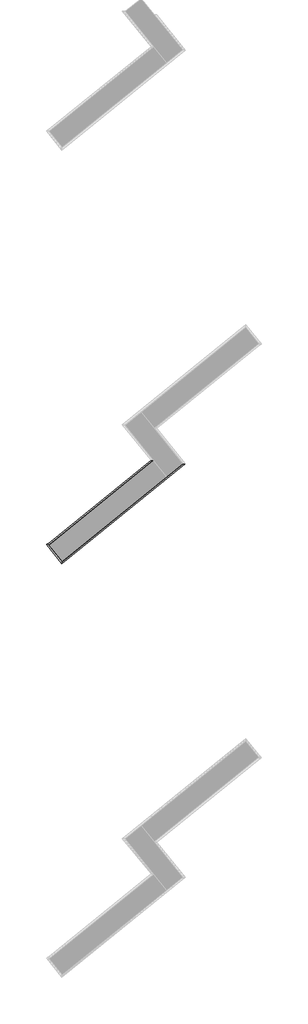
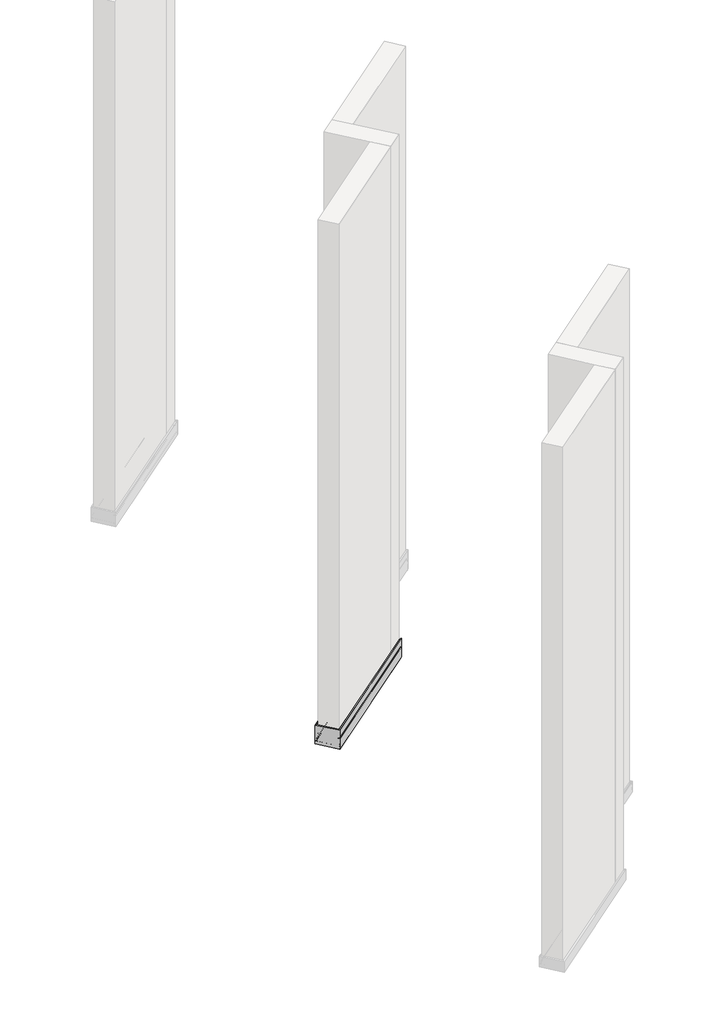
# One storey, part 9 of 21: 2 proxies.
"""IFC4 building model written with IfcOpenShell, lengths in millimetres."""

from ifc_helpers import new_model, si_unit, frame, origin, place, context, project, spatial, circle_curve, ellipse_curve, element, save
from ifc_brep_helpers import plane_surface, cylinder_surface, advanced_brep

model = new_model("IFC4")

# Units and contexts
model_context = context("Model", 3, world=origin())
ifc_project = project(units=[si_unit("LENGTHUNIT", "METRE", prefix="MILLI")], contexts=[model_context])

# Site, building, storey
site = spatial("IfcSite", under=ifc_project)
building = spatial("IfcBuilding", under=site)
storey = spatial("IfcBuildingStorey", under=building, Name="Izofleks 2D View", Elevation=0.0)

# Proxies
placement = place(None, origin())
element("IfcBuildingElementProxy", 1, Name="Wall Sweeps", at=placement, inside=storey, context=model_context, shape_type="AdvancedBrep", body=[
    advanced_brep(
    [(2430.0042509, -5344.9959291, 49.9746979), (2432.307842, -5345.2380463, 58.8370339), (2433.6908876, -5345.3834102, 59.6553004), (2437.3944482, -5345.7726701, 59.6553004), (2437.3944482, -5345.7726701, 103.6583819), (2432.8937514, -5345.2996278, 103.6583819), (2432.8937514, -5345.2996278, 101.6584596), (2427.9711237, -5344.7822388, 101.6584596), (2427.9711237, -5344.7822388, 102.9584585), (2430.7840519, -5345.0778895, 102.9584585), (2430.7840519, -5345.0778895, 104.9583814), (2439.2228545, -5345.9648434, 104.9583814), (2439.2228545, -5345.9648434, 2.9583289), (2436.4094999, -5345.6691479, 2.9583289), (2436.4094999, -5345.6691479, 0.4656126), (2434.5810936, -5345.4769746, 0.4656126), (2434.5810936, -5345.4769746, 4.2583289), (2437.3944482, -5345.7726701, 4.2583289), (2437.3944482, -5345.7726701, 28.7655004), (2434.0080992, -5345.4167505, 28.7655004), (2433.7384472, -5345.3884089, 27.7479135), (2435.1018647, -5345.5317099, 27.7479135), (2435.7872524, -5345.603747, 27.1404306), (2433.0506843, -5345.3161221, 18.30079), (2435.3427515, -5345.5570281, 18.30079), (2435.3488299, -5345.557667, 16.99999), (2428.316906, -5344.818582, 16.99999), (2428.316906, -5344.818582, 0.0), (2426.4885138, -5344.6264102, 0.0), (2426.4885138, -5344.6264102, 54.99999), (2428.316906, -5344.818582, 53.99999), (2428.316906, -5344.818582, 47.88979), (2431.1767584, -5345.1191646, 47.88979), (2431.8487049, -5345.189789, 48.8483083), (1773.0133322, -5733.3856184, 49.9746979), (1771.9941753, -5734.2109154, 48.8483083), (1772.3654607, -5733.9102544, 47.88979), (1773.9456782, -5732.6306195, 47.88979), (1773.9456782, -5732.6306195, 53.99999), (1774.9559602, -5731.8125092, 54.99999), (1774.9559602, -5731.8125092, 0.0), (1773.9456782, -5732.6306195, 0.0), (1773.9456782, -5732.6306195, 16.99999), (1770.0601738, -5735.7770389, 16.99999), (1770.0635324, -5735.7743192, 18.30079), (1771.330019, -5734.7487385, 18.30079), (1769.8179225, -5735.9732101, 27.1404306), (1770.1966349, -5735.6665349, 27.7479135), (1770.9499942, -5735.0564766, 27.7479135), (1770.8009974, -5735.1771318, 28.7655004), (1768.929863, -5736.6923465, 28.7655004), (1768.929863, -5736.6923465, 4.2583289), (1770.4843881, -5735.4335169, 4.2583289), (1770.4843881, -5735.4335169, 0.4656126), (1769.4740984, -5736.2516335, 0.4656126), (1769.4740984, -5736.2516335, 2.9583289), (1767.9195733, -5737.510463, 2.9583289), (1767.9195733, -5737.510463, 104.9583814), (1772.5824516, -5733.7345387, 104.9583814), (1772.5824516, -5733.7345387, 102.9584585), (1774.136741, -5732.4758999, 102.9584585), (1774.136741, -5732.4758999, 101.6584596), (1771.4167326, -5734.6785192, 101.6584596), (1771.4167326, -5734.6785192, 103.6583819), (1768.929863, -5736.6923465, 103.6583819), (1768.929863, -5736.6923465, 59.6553004), (1770.9762733, -5735.0351961, 59.6553004), (1771.7404781, -5734.4163553, 58.8370339), (1843.2595238, -5820.1324406, 49.9746979), (1843.0174067, -5822.4360317, 58.8370339), (1842.8720427, -5823.8190773, 59.6553004), (1842.4827828, -5827.522638, 59.6553004), (1842.4827828, -5827.522638, 103.6583819), (1842.9558251, -5823.0219411, 103.6583819), (1842.9558251, -5823.0219411, 101.6584596), (1843.4732141, -5818.0993134, 101.6584596), (1843.4732141, -5818.0993134, 102.9584585), (1843.1775634, -5820.9122416, 102.9584585), (1843.1775634, -5820.9122416, 104.9583814), (1842.2906095, -5829.3510442, 104.9583814), (1842.2906095, -5829.3510442, 2.9583289), (1842.586305, -5826.5376896, 2.9583289), (1842.586305, -5826.5376896, 0.4656126), (1842.7784783, -5824.7092833, 0.4656126), (1842.7784783, -5824.7092833, 4.2583289), (1842.4827828, -5827.522638, 4.2583289), (1842.4827828, -5827.522638, 28.7655004), (1842.8387024, -5824.1362889, 28.7655004), (1842.867044, -5823.8666369, 27.7479135), (1842.723743, -5825.2300544, 27.7479135), (1842.6517059, -5825.9154421, 27.1404306), (1842.9393308, -5823.178874, 18.30079), (1842.6984248, -5825.4709412, 18.30079), (1842.6977859, -5825.4770196, 16.99999), (1843.4368709, -5818.4450957, 16.99999), (1843.4368709, -5818.4450957, 0.0), (1843.6290427, -5816.6167035, 0.0), (2348.7739176, -5407.5584493, 0.0), (1843.6290427, -5816.6167035, 54.99999), (1843.4368709, -5818.4450957, 53.99999), (1843.4368709, -5818.4450957, 47.88979), (1843.1362883, -5821.3049481, 47.88979), (1843.0656639, -5821.9768946, 48.8483083), (1780.6970036, -5738.9021074, 0.0)],
    [
        (0, 1),
        (1, 2, ellipse_curve(frame((2433.6908876, -5345.3834102, 58.6553004), z_axis=(0.1045284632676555, 0.9945218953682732, 0.0), x_axis=(0.9945218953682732, -0.10452846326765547, 0.0)), 1.4142136, 1.0)),
        (2, 3),
        (3, 4),
        (4, 5),
        (5, 6),
        (6, 7),
        (7, 8),
        (8, 9),
        (9, 10),
        (10, 11),
        (11, 12),
        (12, 13),
        (13, 14),
        (14, 15),
        (15, 16),
        (16, 17),
        (17, 18),
        (18, 19),
        (19, 20),
        (20, 21),
        (21, 22, ellipse_curve(frame((2435.1004582, -5345.5315621, 27.2479135), z_axis=(0.1045284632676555, 0.9945218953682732, 0.0), x_axis=(0.9945218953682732, -0.10452846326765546, 0.0)), 0.7071082, 0.500001)),
        (22, 23),
        (23, 24),
        (24, 25, ellipse_curve(frame((2435.1785737, -5345.5397723, 17.649995), z_axis=(0.1045284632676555, 0.9945218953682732, 0.0), x_axis=(0.9945218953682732, -0.10452846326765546, 0.0)), 0.935051, 0.6611809)),
        (25, 26),
        (26, 27),
        (27, 28),
        (28, 29),
        (29, 30, ellipse_curve(frame((2426.8389918, -5344.663247, 53.9789482), z_axis=(0.1045284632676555, 0.9945218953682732, 0.0), x_axis=(0.9945218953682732, -0.10452846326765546, 0.0)), 1.4863528, 1.0510102)),
        (30, 31),
        (31, 32),
        (32, 33),
        (33, 0, ellipse_curve(frame((2431.3872965, -5345.141293, 49.7929644), z_axis=(0.1045284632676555, 0.9945218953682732, 0.0), x_axis=(0.9945218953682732, -0.10452846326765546, 0.0)), 1.4142136, 1.0)),
        (34, 35, circle_curve(frame((1772.2491274, -5734.0044592, 49.7929644), z_axis=(-0.629320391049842, 0.7771459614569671, 0.0), x_axis=(-0.7771459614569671, -0.629320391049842, 0.0)), 1.0)),
        (35, 36),
        (36, 37),
        (37, 38),
        (38, 39, circle_curve(frame((1774.7623028, -5731.9693299, 53.9789482), z_axis=(-0.629320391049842, 0.7771459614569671, 0.0), x_axis=(-0.7771459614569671, -0.629320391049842, 0.0)), 1.0510102)),
        (39, 40),
        (40, 41),
        (41, 42),
        (42, 43),
        (43, 44, circle_curve(frame((1770.1542492, -5735.7008582, 17.649995), z_axis=(-0.629320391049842, 0.7771459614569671, 0.0), x_axis=(-0.7771459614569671, -0.629320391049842, 0.0)), 0.6611809)),
        (44, 45),
        (45, 46),
        (46, 47, circle_curve(frame((1770.1974121, -5735.6659056, 27.2479135), z_axis=(-0.629320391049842, 0.7771459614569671, 0.0), x_axis=(-0.7771459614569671, -0.629320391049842, 0.0)), 0.500001)),
        (47, 48),
        (48, 49),
        (49, 50),
        (50, 51),
        (51, 52),
        (52, 53),
        (53, 54),
        (54, 55),
        (55, 56),
        (56, 57),
        (57, 58),
        (58, 59),
        (59, 60),
        (60, 61),
        (61, 62),
        (62, 63),
        (63, 64),
        (64, 65),
        (65, 66),
        (66, 67, circle_curve(frame((1770.9762733, -5735.0351961, 58.6553004), z_axis=(-0.629320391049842, 0.7771459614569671, 0.0), x_axis=(0.7642047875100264, 0.6188408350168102, 0.18173349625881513)), 1.0)),
        (67, 34),
        (0, 68),
        (68, 69),
        (69, 1),
        (69, 70, ellipse_curve(frame((1842.8720427, -5823.8190773, 58.6553004), z_axis=(0.9945218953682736, -0.1045284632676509, 0.0), x_axis=(0.10452846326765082, 0.9945218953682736, 0.0)), 1.4142136, 1.0)),
        (70, 2),
        (70, 71),
        (71, 3),
        (71, 72),
        (72, 4),
        (72, 73),
        (73, 5),
        (73, 74),
        (74, 6),
        (74, 75),
        (75, 7),
        (75, 76),
        (76, 8),
        (76, 77),
        (77, 9),
        (77, 78),
        (78, 10),
        (78, 79),
        (79, 11),
        (79, 80),
        (80, 12),
        (80, 81),
        (81, 13),
        (81, 82),
        (82, 14),
        (82, 83),
        (83, 15),
        (83, 84),
        (84, 16),
        (84, 85),
        (85, 17),
        (85, 86),
        (86, 18),
        (86, 87),
        (87, 19),
        (87, 88),
        (88, 20),
        (88, 89),
        (89, 21),
        (89, 90, ellipse_curve(frame((1842.7238909, -5825.228648, 27.2479135), z_axis=(0.9945218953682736, -0.1045284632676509, 0.0), x_axis=(0.10452846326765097, 0.9945218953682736, 0.0)), 0.7071082, 0.500001)),
        (90, 22),
        (90, 91),
        (91, 23),
        (91, 92),
        (92, 24),
        (92, 93, ellipse_curve(frame((1842.7156806, -5825.3067635, 17.649995), z_axis=(0.9945218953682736, -0.1045284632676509, 0.0), x_axis=(0.10452846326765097, 0.9945218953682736, 0.0)), 0.935051, 0.6611809)),
        (93, 25),
        (93, 94),
        (94, 26),
        (94, 95),
        (95, 27),
        (95, 96),
        (96, 97),
        (97, 28),
        (96, 98),
        (98, 29),
        (98, 99, ellipse_curve(frame((1843.592206, -5816.9671816, 53.9789482), z_axis=(0.9945218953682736, -0.1045284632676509, 0.0), x_axis=(0.10452846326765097, 0.9945218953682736, 0.0)), 1.4863528, 1.0510102)),
        (99, 30),
        (99, 100),
        (100, 31),
        (100, 101),
        (101, 32),
        (101, 102),
        (102, 33),
        (102, 68, ellipse_curve(frame((1843.1141599, -5821.5154863, 49.7929644), z_axis=(0.9945218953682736, -0.1045284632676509, 0.0), x_axis=(0.10452846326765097, 0.9945218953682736, 0.0)), 1.4142136, 1.0)),
        (68, 34),
        (67, 69),
        (66, 70),
        (65, 71),
        (64, 72),
        (63, 73),
        (62, 74),
        (61, 75),
        (60, 76),
        (59, 77),
        (58, 78),
        (57, 79),
        (56, 80),
        (55, 81),
        (54, 82),
        (53, 83),
        (52, 84),
        (51, 85),
        (50, 86),
        (49, 87),
        (48, 88),
        (47, 89),
        (46, 90),
        (45, 91),
        (44, 92),
        (43, 93),
        (42, 94),
        (41, 95),
        (40, 103),
        (103, 96),
        (39, 98),
        (38, 99),
        (37, 100),
        (36, 101),
        (35, 102),
    ],
    [
        plane_surface(frame((2426.4885138, -5344.6264102, 304.8), z_axis=(0.1045284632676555, 0.9945218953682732, 0.0), x_axis=(-0.9945218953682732, 0.1045284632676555, 0.0))),
        plane_surface(frame((2318.9581332, -5291.2882355, 0.0), z_axis=(-0.6293203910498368, 0.7771459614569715, 0.0), x_axis=(0.7771459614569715, 0.6293203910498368, 0.0))),
        plane_surface(frame((2430.0042509, -5344.9959291, 49.9746979), z_axis=(-0.6188408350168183, 0.7642047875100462, 0.1817334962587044), x_axis=(-0.7771459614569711, -0.6293203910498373, 0.0))),
        cylinder_surface(frame((2429.7112007, -5348.6060971, 58.6553004), z_axis=(0.7771459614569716, 0.629320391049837, 0.0), x_axis=(-0.618840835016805, 0.7642047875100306, 0.1817334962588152)), 1.0),
        plane_surface(frame((2433.6908876, -5345.3834102, 59.6553004), z_axis=(0.0, 0.0, 1.0), x_axis=(-0.7771459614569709, -0.6293203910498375, 0.0))),
        plane_surface(frame((2437.3944482, -5345.7726701, 59.6553004), z_axis=(-0.6293203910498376, 0.7771459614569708, 0.0), x_axis=(-0.7771459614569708, -0.6293203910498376, 0.0))),
        plane_surface(frame((2437.3944482, -5345.7726701, 103.6583819), z_axis=(0.0, 0.0, -1.0), x_axis=(-0.7771459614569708, -0.6293203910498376, 0.0))),
        plane_surface(frame((2432.8937514, -5345.2996278, 103.6583819), z_axis=(0.6293203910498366, -0.7771459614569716, 0.0), x_axis=(-0.7771459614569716, -0.6293203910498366, 0.0))),
        plane_surface(frame((2432.8937514, -5345.2996278, 101.6584596), z_axis=(0.0, 0.0, -1.0), x_axis=(-0.7771459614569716, -0.6293203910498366, 0.0))),
        plane_surface(frame((2427.9711237, -5344.7822388, 101.6584596), z_axis=(-0.6293203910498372, 0.7771459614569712, 0.0), x_axis=(-0.7771459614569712, -0.6293203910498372, 0.0))),
        plane_surface(frame((2427.9711237, -5344.7822388, 102.9584585), z_axis=(0.0, 0.0, 1.0000000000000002), x_axis=(-0.7771459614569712, -0.6293203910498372, 0.0))),
        plane_surface(frame((2430.7840519, -5345.0778895, 102.9584585), z_axis=(-0.6293203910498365, 0.7771459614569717, 0.0), x_axis=(-0.7771459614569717, -0.6293203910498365, 0.0))),
        plane_surface(frame((2430.7840519, -5345.0778895, 104.9583814), z_axis=(0.0, 0.0, 1.0), x_axis=(-0.7771459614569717, -0.6293203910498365, 0.0))),
        plane_surface(frame((2439.2228545, -5345.9648434, 104.9583814), z_axis=(0.6293203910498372, -0.7771459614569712, 0.0), x_axis=(-0.7771459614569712, -0.6293203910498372, 0.0))),
        plane_surface(frame((2439.2228545, -5345.9648434, 2.9583289), z_axis=(0.0, 0.0, -1.0000000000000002), x_axis=(-0.7771459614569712, -0.6293203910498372, 0.0))),
        plane_surface(frame((2436.4094999, -5345.6691479, 2.9583289), z_axis=(0.6293203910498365, -0.7771459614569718, 0.0), x_axis=(-0.7771459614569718, -0.6293203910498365, 0.0))),
        plane_surface(frame((2436.4094999, -5345.6691479, 0.4656126), z_axis=(0.0, 0.0, -1.0), x_axis=(-0.7771459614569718, -0.6293203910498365, 0.0))),
        plane_surface(frame((2434.5810936, -5345.4769746, 0.4656126), z_axis=(-0.629320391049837, 0.7771459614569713, 0.0), x_axis=(-0.7771459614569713, -0.629320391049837, 0.0))),
        plane_surface(frame((2434.5810936, -5345.4769746, 4.2583289), z_axis=(0.0, 0.0, 1.0), x_axis=(-0.7771459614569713, -0.629320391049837, 0.0))),
        plane_surface(frame((2437.3944482, -5345.7726701, 4.2583289), z_axis=(-0.6293203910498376, 0.7771459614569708, 0.0), x_axis=(-0.7771459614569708, -0.6293203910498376, 0.0))),
        plane_surface(frame((2437.3944482, -5345.7726701, 28.7655004), z_axis=(0.0, 0.0, -1.0), x_axis=(-0.7771459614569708, -0.6293203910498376, 0.0))),
        plane_surface(frame((2434.0080992, -5345.4167505, 28.7655004), z_axis=(0.6184393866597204, -0.7637090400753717, -0.1851519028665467), x_axis=(-0.7771459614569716, -0.6293203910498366, 0.0))),
        plane_surface(frame((2433.7384472, -5345.3884089, 27.7479135), z_axis=(0.0, 0.0, 1.0), x_axis=(-0.7771459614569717, -0.6293203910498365, 0.0))),
        cylinder_surface(frame((2430.3419101, -5349.3849584, 27.2479135), z_axis=(0.7771459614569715, 0.6293203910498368, 0.0), x_axis=(0.6293203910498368, -0.7771459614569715, 0.0)), 0.500001),
        plane_surface(frame((2435.7872524, -5345.603747, 27.1404306), z_axis=(0.6146079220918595, -0.7589775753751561, -0.21496544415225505), x_axis=(-0.7771459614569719, -0.6293203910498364, 0.0))),
        plane_surface(frame((2433.0506843, -5345.3161221, 18.30079), z_axis=(0.0, 0.0, 1.0), x_axis=(-0.7771459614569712, -0.6293203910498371, 0.0))),
        cylinder_surface(frame((2430.3768627, -5349.4281213, 17.649995), z_axis=(0.7771459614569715, 0.6293203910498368, 0.0), x_axis=(0.6293203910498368, -0.7771459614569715, 0.0)), 0.6611809),
        plane_surface(frame((2435.3488299, -5345.557667, 16.99999), z_axis=(0.0, 0.0, -1.0000000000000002), x_axis=(-0.777145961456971, -0.6293203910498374, 0.0))),
        plane_surface(frame((2428.316906, -5344.818582, 16.99999), z_axis=(0.6293203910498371, -0.7771459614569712, 0.0), x_axis=(-0.7771459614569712, -0.6293203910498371, 0.0))),
        plane_surface(frame((2428.316906, -5344.818582, 0.0), z_axis=(0.0, 0.0, -1.0), x_axis=(-0.7771459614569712, -0.6293203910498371, 0.0))),
        plane_surface(frame((2426.4885138, -5344.6264102, 0.0), z_axis=(-0.629320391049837, 0.7771459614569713, 0.0), x_axis=(-0.7771459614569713, -0.629320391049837, 0.0))),
        cylinder_surface(frame((2426.6453344, -5344.8200676, 53.9789482), z_axis=(0.7771459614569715, 0.6293203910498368, 0.0), x_axis=(0.6293203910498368, -0.7771459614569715, 0.0)), 1.0510102),
        plane_surface(frame((2428.316906, -5344.818582, 53.99999), z_axis=(0.6293203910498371, -0.7771459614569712, 0.0), x_axis=(-0.7771459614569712, -0.6293203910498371, 0.0))),
        plane_surface(frame((2428.316906, -5344.818582, 47.88979), z_axis=(0.0, 0.0, 1.0), x_axis=(-0.7771459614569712, -0.6293203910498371, 0.0))),
        plane_surface(frame((2431.1767584, -5345.1191646, 47.88979), z_axis=(-0.5632343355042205, 0.6955364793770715, 0.44608977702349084), x_axis=(-0.7771459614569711, -0.6293203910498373, 0.0))),
        cylinder_surface(frame((2428.6804638, -5347.333243, 49.7929644), z_axis=(0.7771459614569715, 0.6293203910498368, 0.0), x_axis=(0.6293203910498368, -0.7771459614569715, 0.0)), 1.0),
        plane_surface(frame((1843.2595238, -5820.1324406, 49.9746979), z_axis=(0.7642047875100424, 0.618840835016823, 0.18173349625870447), x_axis=(-0.629320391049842, 0.7771459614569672, 0.0))),
        cylinder_surface(frame((1839.6493558, -5819.8393904, 58.6553004), z_axis=(0.6293203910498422, -0.7771459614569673, 0.0), x_axis=(0.7642047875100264, 0.6188408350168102, 0.18173349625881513)), 1.0),
        plane_surface(frame((1842.8720427, -5823.8190773, 59.6553004), z_axis=(0.0, 0.0, 1.0), x_axis=(-0.6293203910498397, 0.777145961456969, 0.0))),
        plane_surface(frame((1842.4827828, -5827.522638, 59.6553004), z_axis=(0.7771459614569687, 0.6293203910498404, 0.0), x_axis=(-0.6293203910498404, 0.7771459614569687, 0.0))),
        plane_surface(frame((1842.4827828, -5827.522638, 103.6583819), z_axis=(0.0, 0.0, -1.0000000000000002), x_axis=(-0.6293203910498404, 0.7771459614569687, 0.0))),
        plane_surface(frame((1842.9558251, -5823.0219411, 103.6583819), z_axis=(-0.7771459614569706, -0.6293203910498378, 0.0), x_axis=(-0.6293203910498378, 0.7771459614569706, 0.0))),
        plane_surface(frame((1842.9558251, -5823.0219411, 101.6584596), z_axis=(0.0, 0.0, -1.0), x_axis=(-0.6293203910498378, 0.7771459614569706, 0.0))),
        plane_surface(frame((1843.4732141, -5818.0993134, 101.6584596), z_axis=(0.7771459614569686, 0.6293203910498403, 0.0), x_axis=(-0.6293203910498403, 0.7771459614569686, 0.0))),
        plane_surface(frame((1843.4732141, -5818.0993134, 102.9584585), z_axis=(0.0, 0.0, 1.0), x_axis=(-0.6293203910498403, 0.7771459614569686, 0.0))),
        plane_surface(frame((1843.1775634, -5820.9122416, 102.9584585), z_axis=(0.7771459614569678, 0.6293203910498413, 0.0), x_axis=(-0.6293203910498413, 0.7771459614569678, 0.0))),
        plane_surface(frame((1843.1775634, -5820.9122416, 104.9583814), z_axis=(0.0, 0.0, 1.0), x_axis=(-0.6293203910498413, 0.7771459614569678, 0.0))),
        plane_surface(frame((1842.2906095, -5829.3510442, 104.9583814), z_axis=(-0.7771459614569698, -0.629320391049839, 0.0), x_axis=(-0.629320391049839, 0.7771459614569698, 0.0))),
        plane_surface(frame((1842.2906095, -5829.3510442, 2.9583289), z_axis=(0.0, 0.0, -1.0), x_axis=(-0.629320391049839, 0.7771459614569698, 0.0))),
        plane_surface(frame((1842.586305, -5826.5376896, 2.9583289), z_axis=(-0.7771459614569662, -0.6293203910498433, 0.0), x_axis=(-0.6293203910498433, 0.7771459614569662, 0.0))),
        plane_surface(frame((1842.586305, -5826.5376896, 0.4656126), z_axis=(0.0, 0.0, -1.0000000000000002), x_axis=(-0.6293203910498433, 0.7771459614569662, 0.0))),
        plane_surface(frame((1842.7784783, -5824.7092833, 0.4656126), z_axis=(0.7771459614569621, 0.6293203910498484, 0.0), x_axis=(-0.6293203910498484, 0.7771459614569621, 0.0))),
        plane_surface(frame((1842.7784783, -5824.7092833, 4.2583289), z_axis=(0.0, 0.0, 1.0), x_axis=(-0.6293203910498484, 0.7771459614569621, 0.0))),
        plane_surface(frame((1842.4827828, -5827.522638, 4.2583289), z_axis=(0.7771459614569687, 0.6293203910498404, 0.0), x_axis=(-0.6293203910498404, 0.7771459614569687, 0.0))),
        plane_surface(frame((1842.4827828, -5827.522638, 28.7655004), z_axis=(0.0, 0.0, -1.0000000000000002), x_axis=(-0.6293203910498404, 0.7771459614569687, 0.0))),
        plane_surface(frame((1842.8387024, -5824.1362889, 28.7655004), z_axis=(-0.7637090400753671, -0.6184393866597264, -0.18515190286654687), x_axis=(-0.6293203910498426, 0.7771459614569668, 0.0))),
        plane_surface(frame((1842.867044, -5823.8666369, 27.7479135), z_axis=(0.0, 0.0, 1.0000000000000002), x_axis=(-0.6293203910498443, 0.7771459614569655, 0.0))),
        cylinder_surface(frame((1838.8704946, -5820.4700998, 27.2479135), z_axis=(0.629320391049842, -0.7771459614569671, 0.0), x_axis=(-0.7771459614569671, -0.629320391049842, 0.0)), 0.500001),
        plane_surface(frame((1842.6517059, -5825.9154421, 27.1404306), z_axis=(-0.7589775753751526, -0.6146079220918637, -0.21496544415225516), x_axis=(-0.6293203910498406, 0.7771459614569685, 0.0))),
        plane_surface(frame((1842.9393308, -5823.178874, 18.30079), z_axis=(0.0, 0.0, 1.0), x_axis=(-0.6293203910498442, 0.7771459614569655, 0.0))),
        cylinder_surface(frame((1838.8273317, -5820.5050524, 17.649995), z_axis=(0.629320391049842, -0.7771459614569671, 0.0), x_axis=(-0.7771459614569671, -0.629320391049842, 0.0)), 0.6611809),
        plane_surface(frame((1842.6977859, -5825.4770196, 16.99999), z_axis=(0.0, 0.0, -1.0), x_axis=(-0.6293203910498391, 0.7771459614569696, 0.0))),
        plane_surface(frame((1843.4368709, -5818.4450957, 16.99999), z_axis=(-0.7771459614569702, -0.6293203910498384, 0.0), x_axis=(-0.6293203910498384, 0.7771459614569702, 0.0))),
        plane_surface(frame((1843.4368709, -5818.4450957, 0.0), z_axis=(0.0, 0.0, -1.0000000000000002), x_axis=(-0.6293203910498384, 0.7771459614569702, 0.0))),
        plane_surface(frame((1843.6290427, -5816.6167035, 0.0), z_axis=(0.7771459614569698, 0.6293203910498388, 0.0), x_axis=(-0.6293203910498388, 0.7771459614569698, 0.0))),
        cylinder_surface(frame((1843.4353853, -5816.7735242, 53.9789482), z_axis=(0.629320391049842, -0.7771459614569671, 0.0), x_axis=(-0.7771459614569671, -0.629320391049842, 0.0)), 1.0510102),
        plane_surface(frame((1843.4368709, -5818.4450957, 53.99999), z_axis=(-0.7771459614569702, -0.6293203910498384, 0.0), x_axis=(-0.6293203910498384, 0.7771459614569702, 0.0))),
        plane_surface(frame((1843.4368709, -5818.4450957, 47.88979), z_axis=(0.0, 0.0, 1.0000000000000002), x_axis=(-0.6293203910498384, 0.7771459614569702, 0.0))),
        plane_surface(frame((1843.1362883, -5821.3049481, 47.88979), z_axis=(0.6955364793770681, 0.5632343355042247, 0.44608977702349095), x_axis=(-0.6293203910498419, 0.7771459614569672, 0.0))),
        cylinder_surface(frame((1840.9222099, -5818.8086535, 49.7929644), z_axis=(0.629320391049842, -0.7771459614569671, 0.0), x_axis=(-0.7771459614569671, -0.629320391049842, 0.0)), 1.0),
    ],
    [
        (0, [[1, 2, 3, 4, 5, 6, 7, 8, 9, 10, 11, 12, 13, 14, 15, 16, 17, 18, 19, 20, 21, 22, 23, 24, 25, 26, 27, 28, 29, 30, 31, 32, 33, 34]]),
        (1, [[35, 36, 37, 38, 39, 40, 41, 42, 43, 44, 45, 46, 47, 48, 49, 50, 51, 52, 53, 54, 55, 56, 57, 58, 59, 60, 61, 62, 63, 64, 65, 66, 67, 68]]),
        (2, [[-1, 69, 70, 71]]),
        (3, [[-2, -71, 72, 73]]),
        (4, [[-3, -73, 74, 75]]),
        (5, [[-4, -75, 76, 77]]),
        (6, [[-5, -77, 78, 79]]),
        (7, [[-6, -79, 80, 81]]),
        (8, [[-7, -81, 82, 83]]),
        (9, [[-8, -83, 84, 85]]),
        (10, [[-9, -85, 86, 87]]),
        (11, [[-10, -87, 88, 89]]),
        (12, [[-11, -89, 90, 91]]),
        (13, [[-12, -91, 92, 93]]),
        (14, [[-13, -93, 94, 95]]),
        (15, [[-14, -95, 96, 97]]),
        (16, [[-15, -97, 98, 99]]),
        (17, [[-16, -99, 100, 101]]),
        (18, [[-17, -101, 102, 103]]),
        (19, [[-18, -103, 104, 105]]),
        (20, [[-19, -105, 106, 107]]),
        (21, [[-20, -107, 108, 109]]),
        (22, [[-21, -109, 110, 111]]),
        (23, [[-22, -111, 112, 113]]),
        (24, [[-23, -113, 114, 115]]),
        (25, [[-24, -115, 116, 117]]),
        (26, [[-25, -117, 118, 119]]),
        (27, [[-26, -119, 120, 121]]),
        (28, [[-27, -121, 122, 123]]),
        (29, [[-28, -123, 124, 125, 126]]),
        (30, [[-29, -126, -125, 127, 128]]),
        (31, [[-30, -128, 129, 130]]),
        (32, [[-31, -130, 131, 132]]),
        (33, [[-32, -132, 133, 134]]),
        (34, [[-33, -134, 135, 136]]),
        (35, [[-34, -136, 137, -69]]),
        (36, [[-70, 138, -68, 139]]),
        (37, [[-72, -139, -67, 140]]),
        (38, [[-74, -140, -66, 141]]),
        (39, [[-76, -141, -65, 142]]),
        (40, [[-78, -142, -64, 143]]),
        (41, [[-80, -143, -63, 144]]),
        (42, [[-82, -144, -62, 145]]),
        (43, [[-84, -145, -61, 146]]),
        (44, [[-86, -146, -60, 147]]),
        (45, [[-88, -147, -59, 148]]),
        (46, [[-90, -148, -58, 149]]),
        (47, [[-92, -149, -57, 150]]),
        (48, [[-94, -150, -56, 151]]),
        (49, [[-96, -151, -55, 152]]),
        (50, [[-98, -152, -54, 153]]),
        (51, [[-100, -153, -53, 154]]),
        (52, [[-102, -154, -52, 155]]),
        (53, [[-104, -155, -51, 156]]),
        (54, [[-106, -156, -50, 157]]),
        (55, [[-108, -157, -49, 158]]),
        (56, [[-110, -158, -48, 159]]),
        (57, [[-112, -159, -47, 160]]),
        (58, [[-114, -160, -46, 161]]),
        (59, [[-116, -161, -45, 162]]),
        (60, [[-118, -162, -44, 163]]),
        (61, [[-120, -163, -43, 164]]),
        (62, [[-122, -164, -42, 165]]),
        (63, [[-124, -165, -41, 166, 167]]),
        (64, [[-127, -167, -166, -40, 168]]),
        (65, [[-129, -168, -39, 169]]),
        (66, [[-131, -169, -38, 170]]),
        (67, [[-133, -170, -37, 171]]),
        (68, [[-135, -171, -36, 172]]),
        (69, [[-137, -172, -35, -138]]),
    ],
),
])
element("IfcBuildingElementProxy", 2, Name="Wall Sweeps", at=placement, inside=storey, context=model_context, shape_type="AdvancedBrep", body=[
    advanced_brep(
    [(2282.3261414, -5329.4743343, 49.9746979), (2280.4816874, -5329.2804744, 48.8483083), (2281.1536339, -5329.3510988, 47.88979), (2284.0134863, -5329.6516814, 47.88979), (2284.0134863, -5329.6516814, 53.99999), (2285.8418785, -5329.8438532, 54.99999), (2285.8418785, -5329.8438532, 0.0), (2284.0134863, -5329.6516814, 0.0), (2284.0134863, -5329.6516814, 16.99999), (2276.9815625, -5328.9125964, 16.99999), (2276.9876408, -5328.9132353, 18.30079), (2279.279708, -5329.1541413, 18.30079), (2276.54314, -5328.8665164, 27.1404306), (2277.2285276, -5328.9385535, 27.7479135), (2278.5919451, -5329.0818545, 27.7479135), (2278.3222931, -5329.0535129, 28.7655004), (2274.9359441, -5328.6975933, 28.7655004), (2274.9359441, -5328.6975933, 4.2583289), (2277.7492987, -5328.9932888, 4.2583289), (2277.7492987, -5328.9932888, 0.4656126), (2275.9208925, -5328.8011155, 0.4656126), (2275.9208925, -5328.8011155, 2.9583289), (2273.1075378, -5328.50542, 2.9583289), (2273.1075378, -5328.50542, 104.9583814), (2281.5463404, -5329.3923739, 104.9583814), (2281.5463404, -5329.3923739, 102.9584585), (2284.3592686, -5329.6880246, 102.9584585), (2284.3592686, -5329.6880246, 101.6584596), (2279.436641, -5329.1706356, 101.6584596), (2279.436641, -5329.1706356, 103.6583819), (2274.9359441, -5328.6975933, 103.6583819), (2274.9359441, -5328.6975933, 59.6553004), (2278.6395047, -5329.0868532, 59.6553004), (2280.0225504, -5329.2322171, 58.8370339), (1779.1238944, -5736.9594794, 49.9746979), (1778.0931575, -5735.6866253, 58.8370339), (1777.4743167, -5734.9224205, 59.6553004), (1775.8171663, -5732.8760102, 59.6553004), (1775.8171663, -5732.8760102, 103.6583819), (1777.8309936, -5735.3628798, 103.6583819), (1777.8309936, -5735.3628798, 101.6584596), (1780.0336129, -5738.0828881, 101.6584596), (1780.0336129, -5738.0828881, 102.9584585), (1778.7749742, -5736.5285987, 102.9584585), (1778.7749742, -5736.5285987, 104.9583814), (1774.9990498, -5731.8657204, 104.9583814), (1774.9990498, -5731.8657204, 2.9583289), (1776.2578794, -5733.4202455, 2.9583289), (1776.2578794, -5733.4202455, 0.4656126), (1777.0759959, -5734.4305353, 0.4656126), (1777.0759959, -5734.4305353, 4.2583289), (1775.8171663, -5732.8760102, 4.2583289), (1775.8171663, -5732.8760102, 28.7655004), (1777.332381, -5734.7471445, 28.7655004), (1777.4530362, -5734.8961413, 27.7479135), (1776.842978, -5734.1427821, 27.7479135), (1776.5363027, -5733.7640697, 27.1404306), (1777.7607743, -5735.2761662, 18.30079), (1776.7351937, -5734.0096796, 18.30079), (1776.7324739, -5734.006321, 16.99999), (1779.8788934, -5737.8918254, 16.99999), (1779.8788934, -5737.8918254, 0.0), (1780.6970036, -5738.9021074, 0.0), (1780.6970036, -5738.9021074, 54.99999), (1779.8788934, -5737.8918254, 53.99999), (1779.8788934, -5737.8918254, 47.88979), (1778.5992585, -5736.3116079, 47.88979), (1778.2985974, -5735.9403224, 48.8483083)],
    [
        (0, 1, ellipse_curve(frame((2280.9430958, -5329.3289704, 49.7929644), z_axis=(0.1045284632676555, 0.9945218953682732, 0.0), x_axis=(0.9945218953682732, -0.10452846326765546, 0.0)), 1.4142136, 1.0)),
        (1, 2),
        (2, 3),
        (3, 4),
        (4, 5, ellipse_curve(frame((2285.4914005, -5329.8070165, 53.9789482), z_axis=(0.1045284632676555, 0.9945218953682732, 0.0), x_axis=(0.9945218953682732, -0.10452846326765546, 0.0)), 1.4863528, 1.0510102)),
        (5, 6),
        (6, 7),
        (7, 8),
        (8, 9),
        (9, 10, ellipse_curve(frame((2277.1518186, -5328.9304911, 17.649995), z_axis=(0.1045284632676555, 0.9945218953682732, 0.0), x_axis=(0.9945218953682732, -0.10452846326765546, 0.0)), 0.935051, 0.6611809)),
        (10, 11),
        (11, 12),
        (12, 13, ellipse_curve(frame((2277.2299341, -5328.9387013, 27.2479135), z_axis=(0.1045284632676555, 0.9945218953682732, 0.0), x_axis=(0.9945218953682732, -0.10452846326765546, 0.0)), 0.7071082, 0.500001)),
        (13, 14),
        (14, 15),
        (15, 16),
        (16, 17),
        (17, 18),
        (18, 19),
        (19, 20),
        (20, 21),
        (21, 22),
        (22, 23),
        (23, 24),
        (24, 25),
        (25, 26),
        (26, 27),
        (27, 28),
        (28, 29),
        (29, 30),
        (30, 31),
        (31, 32),
        (32, 33, ellipse_curve(frame((2278.6395047, -5329.0868532, 58.6553004), z_axis=(0.1045284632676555, 0.9945218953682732, 0.0), x_axis=(0.9945218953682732, -0.10452846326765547, 0.0)), 1.4142136, 1.0)),
        (33, 0),
        (34, 35),
        (35, 36, circle_curve(frame((1777.4743167, -5734.9224205, 58.6553004), z_axis=(-0.7771459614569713, -0.6293203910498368, 0.0), x_axis=(0.618840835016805, -0.7642047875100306, 0.1817334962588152)), 1.0)),
        (36, 37),
        (37, 38),
        (38, 39),
        (39, 40),
        (40, 41),
        (41, 42),
        (42, 43),
        (43, 44),
        (44, 45),
        (45, 46),
        (46, 47),
        (47, 48),
        (48, 49),
        (49, 50),
        (50, 51),
        (51, 52),
        (52, 53),
        (53, 54),
        (54, 55),
        (55, 56, circle_curve(frame((1776.8436073, -5734.1435592, 27.2479135), z_axis=(-0.7771459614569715, -0.6293203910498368, 0.0), x_axis=(-0.6293203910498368, 0.7771459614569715, 0.0)), 0.500001)),
        (56, 57),
        (57, 58),
        (58, 59, circle_curve(frame((1776.8086547, -5734.1003963, 17.649995), z_axis=(-0.7771459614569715, -0.6293203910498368, 0.0), x_axis=(-0.6293203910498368, 0.7771459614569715, 0.0)), 0.6611809)),
        (59, 60),
        (60, 61),
        (61, 62),
        (62, 63),
        (63, 64, circle_curve(frame((1780.5401829, -5738.70845, 53.9789482), z_axis=(-0.7771459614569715, -0.6293203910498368, 0.0), x_axis=(-0.6293203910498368, 0.7771459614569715, 0.0)), 1.0510102)),
        (64, 65),
        (65, 66),
        (66, 67),
        (67, 34, circle_curve(frame((1778.5050536, -5736.1952746, 49.7929644), z_axis=(-0.7771459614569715, -0.6293203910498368, 0.0), x_axis=(-0.6293203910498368, 0.7771459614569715, 0.0)), 1.0)),
        (0, 34),
        (67, 1),
        (66, 2),
        (65, 3),
        (64, 4),
        (63, 5),
        (62, 6),
        (61, 7),
        (60, 8),
        (59, 9),
        (58, 10),
        (57, 11),
        (56, 12),
        (55, 13),
        (54, 14),
        (53, 15),
        (52, 16),
        (51, 17),
        (50, 18),
        (49, 19),
        (48, 20),
        (47, 21),
        (46, 22),
        (45, 23),
        (44, 24),
        (43, 25),
        (42, 26),
        (41, 27),
        (40, 28),
        (39, 29),
        (38, 30),
        (37, 31),
        (36, 32),
        (35, 33),
    ],
    [
        plane_surface(frame((2285.8418785, -5329.8438532, 304.8), z_axis=(0.1045284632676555, 0.9945218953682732, 0.0), x_axis=(-0.9945218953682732, 0.1045284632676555, 0.0))),
        plane_surface(frame((1780.6970036, -5738.9021074, -105.348181), z_axis=(-0.7771459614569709, -0.6293203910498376, 0.0), x_axis=(0.6293203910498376, -0.7771459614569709, 0.0))),
        cylinder_surface(frame((2283.6499286, -5327.1370204, 49.7929644), z_axis=(0.7771459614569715, 0.6293203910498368, 0.0), x_axis=(-0.6293203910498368, 0.7771459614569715, 0.0)), 1.0),
        plane_surface(frame((2280.4816874, -5329.2804744, 48.8483083), z_axis=(0.5632343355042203, -0.6955364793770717, 0.44608977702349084), x_axis=(-0.7771459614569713, -0.6293203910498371, 0.0))),
        plane_surface(frame((2281.1536339, -5329.3510988, 47.88979), z_axis=(0.0, 0.0, 1.0000000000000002), x_axis=(-0.7771459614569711, -0.6293203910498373, 0.0))),
        plane_surface(frame((2284.0134863, -5329.6516814, 47.88979), z_axis=(-0.6293203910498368, 0.7771459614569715, 0.0), x_axis=(-0.7771459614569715, -0.6293203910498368, 0.0))),
        cylinder_surface(frame((2285.6850579, -5329.6501958, 53.9789482), z_axis=(0.7771459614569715, 0.6293203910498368, 0.0), x_axis=(-0.6293203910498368, 0.7771459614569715, 0.0)), 1.0510102),
        plane_surface(frame((2285.8418785, -5329.8438532, 54.99999), z_axis=(0.6293203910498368, -0.7771459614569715, 0.0), x_axis=(-0.7771459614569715, -0.6293203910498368, 0.0))),
        plane_surface(frame((2285.8418785, -5329.8438532, 0.0), z_axis=(0.0, 0.0, -1.0000000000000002), x_axis=(-0.7771459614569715, -0.6293203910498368, 0.0))),
        plane_surface(frame((2284.0134863, -5329.6516814, 0.0), z_axis=(-0.6293203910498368, 0.7771459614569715, 0.0), x_axis=(-0.7771459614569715, -0.6293203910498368, 0.0))),
        plane_surface(frame((2284.0134863, -5329.6516814, 16.99999), z_axis=(0.0, 0.0, -1.0000000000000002), x_axis=(-0.7771459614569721, -0.6293203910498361, 0.0))),
        cylinder_surface(frame((2281.9535296, -5325.0421421, 17.649995), z_axis=(0.7771459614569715, 0.6293203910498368, 0.0), x_axis=(-0.6293203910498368, 0.7771459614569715, 0.0)), 0.6611809),
        plane_surface(frame((2276.9876408, -5328.9132353, 18.30079), z_axis=(0.0, 0.0, 1.0), x_axis=(-0.7771459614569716, -0.6293203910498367, 0.0))),
        plane_surface(frame((2279.279708, -5329.1541413, 18.30079), z_axis=(-0.6146079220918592, 0.7589775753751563, -0.21496544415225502), x_axis=(-0.7771459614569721, -0.6293203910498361, 0.0))),
        cylinder_surface(frame((2281.9884822, -5325.085305, 27.2479135), z_axis=(0.7771459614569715, 0.6293203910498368, 0.0), x_axis=(-0.6293203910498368, 0.7771459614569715, 0.0)), 0.500001),
        plane_surface(frame((2277.2285276, -5328.9385535, 27.7479135), z_axis=(0.0, 0.0, 1.0000000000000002), x_axis=(-0.7771459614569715, -0.6293203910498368, 0.0))),
        plane_surface(frame((2278.5919451, -5329.0818545, 27.7479135), z_axis=(-0.618439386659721, 0.7637090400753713, -0.18515190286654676), x_axis=(-0.7771459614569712, -0.6293203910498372, 0.0))),
        plane_surface(frame((2278.3222931, -5329.0535129, 28.7655004), z_axis=(0.0, 0.0, -1.0), x_axis=(-0.7771459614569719, -0.6293203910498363, 0.0))),
        plane_surface(frame((2274.9359441, -5328.6975933, 28.7655004), z_axis=(0.6293203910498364, -0.7771459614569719, 0.0), x_axis=(-0.7771459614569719, -0.6293203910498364, 0.0))),
        plane_surface(frame((2274.9359441, -5328.6975933, 4.2583289), z_axis=(0.0, 0.0, 1.0000000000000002), x_axis=(-0.7771459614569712, -0.6293203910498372, 0.0))),
        plane_surface(frame((2277.7492987, -5328.9932888, 4.2583289), z_axis=(0.6293203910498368, -0.7771459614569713, 0.0), x_axis=(-0.7771459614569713, -0.6293203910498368, 0.0))),
        plane_surface(frame((2277.7492987, -5328.9932888, 0.4656126), z_axis=(0.0, 0.0, -1.0), x_axis=(-0.7771459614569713, -0.6293203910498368, 0.0))),
        plane_surface(frame((2275.9208925, -5328.8011155, 0.4656126), z_axis=(-0.6293203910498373, 0.7771459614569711, 0.0), x_axis=(-0.7771459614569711, -0.6293203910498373, 0.0))),
        plane_surface(frame((2275.9208925, -5328.8011155, 2.9583289), z_axis=(0.0, 0.0, -1.0), x_axis=(-0.7771459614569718, -0.6293203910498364, 0.0))),
        plane_surface(frame((2273.1075378, -5328.50542, 2.9583289), z_axis=(-0.6293203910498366, 0.7771459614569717, 0.0), x_axis=(-0.7771459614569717, -0.6293203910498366, 0.0))),
        plane_surface(frame((2273.1075378, -5328.50542, 104.9583814), z_axis=(0.0, 0.0, 1.0000000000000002), x_axis=(-0.7771459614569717, -0.6293203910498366, 0.0))),
        plane_surface(frame((2281.5463404, -5329.3923739, 104.9583814), z_axis=(0.6293203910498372, -0.7771459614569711, 0.0), x_axis=(-0.7771459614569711, -0.6293203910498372, 0.0))),
        plane_surface(frame((2281.5463404, -5329.3923739, 102.9584585), z_axis=(0.0, 0.0, 1.0), x_axis=(-0.7771459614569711, -0.6293203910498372, 0.0))),
        plane_surface(frame((2284.3592686, -5329.6880246, 102.9584585), z_axis=(0.6293203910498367, -0.7771459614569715, 0.0), x_axis=(-0.7771459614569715, -0.6293203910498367, 0.0))),
        plane_surface(frame((2284.3592686, -5329.6880246, 101.6584596), z_axis=(0.0, 0.0, -1.0), x_axis=(-0.7771459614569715, -0.6293203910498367, 0.0))),
        plane_surface(frame((2279.436641, -5329.1706356, 101.6584596), z_axis=(-0.629320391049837, 0.7771459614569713, 0.0), x_axis=(-0.7771459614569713, -0.629320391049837, 0.0))),
        plane_surface(frame((2279.436641, -5329.1706356, 103.6583819), z_axis=(0.0, 0.0, -1.0), x_axis=(-0.7771459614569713, -0.629320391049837, 0.0))),
        plane_surface(frame((2274.9359441, -5328.6975933, 103.6583819), z_axis=(0.6293203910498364, -0.7771459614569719, 0.0), x_axis=(-0.7771459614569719, -0.6293203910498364, 0.0))),
        plane_surface(frame((2274.9359441, -5328.6975933, 59.6553004), z_axis=(0.0, 0.0, 1.0), x_axis=(-0.7771459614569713, -0.629320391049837, 0.0))),
        cylinder_surface(frame((2282.6191916, -5325.8641663, 58.6553004), z_axis=(0.7771459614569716, 0.629320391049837, 0.0), x_axis=(0.618840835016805, -0.7642047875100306, 0.1817334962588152)), 1.0),
        plane_surface(frame((2280.0225504, -5329.2322171, 58.8370339), z_axis=(0.6188408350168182, -0.7642047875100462, 0.18173349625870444), x_axis=(-0.7771459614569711, -0.6293203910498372, 0.0))),
    ],
    [
        (0, [[1, 2, 3, 4, 5, 6, 7, 8, 9, 10, 11, 12, 13, 14, 15, 16, 17, 18, 19, 20, 21, 22, 23, 24, 25, 26, 27, 28, 29, 30, 31, 32, 33, 34]]),
        (1, [[35, 36, 37, 38, 39, 40, 41, 42, 43, 44, 45, 46, 47, 48, 49, 50, 51, 52, 53, 54, 55, 56, 57, 58, 59, 60, 61, 62, 63, 64, 65, 66, 67, 68]]),
        (2, [[-1, 69, -68, 70]]),
        (3, [[-2, -70, -67, 71]]),
        (4, [[-3, -71, -66, 72]]),
        (5, [[-4, -72, -65, 73]]),
        (6, [[-5, -73, -64, 74]]),
        (7, [[-6, -74, -63, 75]]),
        (8, [[-7, -75, -62, 76]]),
        (9, [[-8, -76, -61, 77]]),
        (10, [[-9, -77, -60, 78]]),
        (11, [[-10, -78, -59, 79]]),
        (12, [[-11, -79, -58, 80]]),
        (13, [[-12, -80, -57, 81]]),
        (14, [[-13, -81, -56, 82]]),
        (15, [[-14, -82, -55, 83]]),
        (16, [[-15, -83, -54, 84]]),
        (17, [[-16, -84, -53, 85]]),
        (18, [[-17, -85, -52, 86]]),
        (19, [[-18, -86, -51, 87]]),
        (20, [[-19, -87, -50, 88]]),
        (21, [[-20, -88, -49, 89]]),
        (22, [[-21, -89, -48, 90]]),
        (23, [[-22, -90, -47, 91]]),
        (24, [[-23, -91, -46, 92]]),
        (25, [[-24, -92, -45, 93]]),
        (26, [[-25, -93, -44, 94]]),
        (27, [[-26, -94, -43, 95]]),
        (28, [[-27, -95, -42, 96]]),
        (29, [[-28, -96, -41, 97]]),
        (30, [[-29, -97, -40, 98]]),
        (31, [[-30, -98, -39, 99]]),
        (32, [[-31, -99, -38, 100]]),
        (33, [[-32, -100, -37, 101]]),
        (34, [[-33, -101, -36, 102]]),
        (35, [[-34, -102, -35, -69]]),
    ],
),
])

save(model, "model.ifc")
